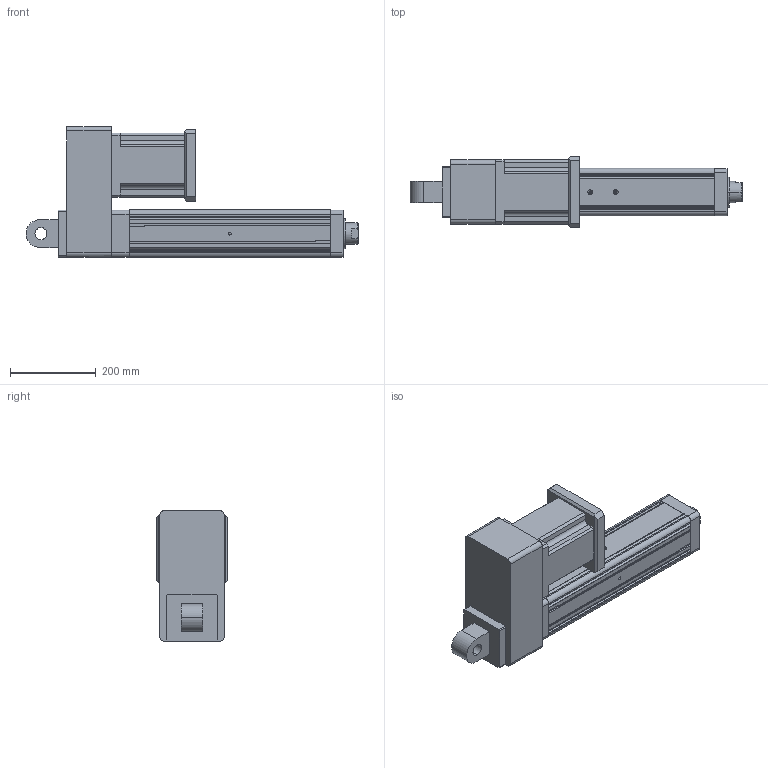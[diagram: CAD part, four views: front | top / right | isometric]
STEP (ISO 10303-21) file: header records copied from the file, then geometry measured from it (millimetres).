
FILE_DESCRIPTION (( 'STEP AP203' ), '1' );
FILE_NAME ('YRJ110-L300-H6K2.STEP', '2020-01-04T07:04:21', ( 'User' ), ( 'China' ), 'SwSTEP 2.0', 'SolidWorks 2016', '' );
FILE_SCHEMA (( 'CONFIG_CONTROL_DESIGN' ));
Length unit declared in the file: millimetre
Products named in the file (8): 095-100俴最倰第; 萇儂碟-110; 142熬厒儂; H5-110-1; YRJ110-L300-H6K2; H6-110; H3-110-2; K2-110
Assembly tree (7 placements, depth 2):
  YRJ110-L300-H6K2
    095-100俴最倰第
    萇儂碟-110
    142熬厒儂
    H5-110-1
    H6-110
    H3-110-2
    K2-110
Bounding box: 776 x 168 x 305.5 mm (x, y, z)
Volume: 12151924.1 mm3; surface area: 946018.6 mm2
Topology: 7 solids, 7 shells, 316 faces, 865 edges, 559 vertices
Faces by surface type: plane 177, cylinder 112, cone 27
Entity records: 11082 total; most frequent: CARTESIAN_POINT 2074, DIRECTION 1718, ORIENTED_EDGE 1698, EDGE_CURVE 849, LINE 588, VECTOR 588, AXIS2_PLACEMENT_3D 565, VERTEX_POINT 559
